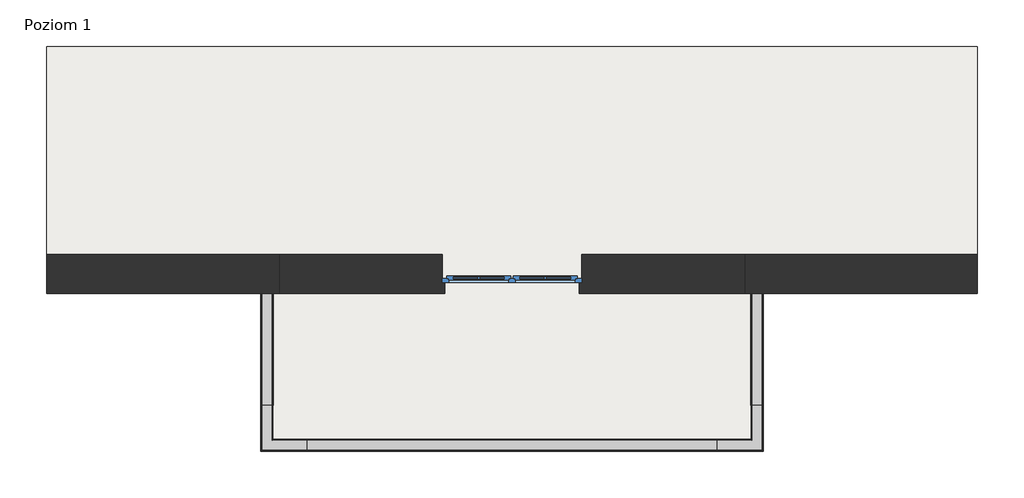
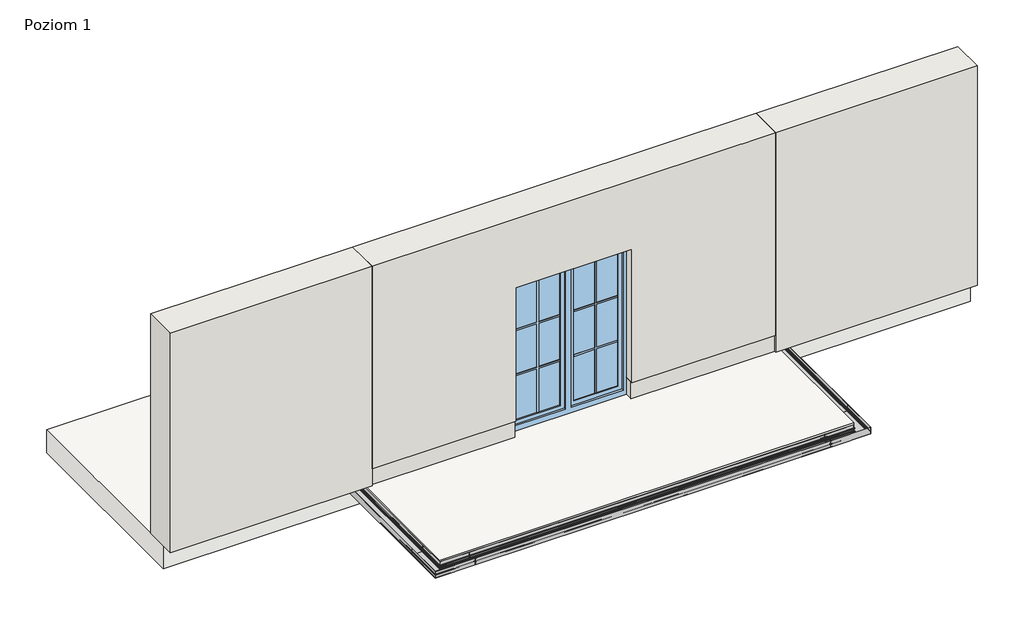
# One storey, part 1 of 4: 5 proxies, 4 walls, 3 slabs, 1 window.
"""IFC4 building model written with IfcOpenShell, lengths in millimetres."""

from ifc_helpers import new_model, si_unit, frame, origin, origin_with_axes, place, context, project, spatial, polyline, outline, extrude, faceted_brep, transform, mapped, element, save
from components import generic_models_1564dfc5, generic_models_f545b3be, generic_models_1ec3699d, generic_models_fa7b45f4, generic_models_2630b972, window_150x200_12b14935

model = new_model("IFC4")

# Units and contexts
model_context = context("Model", 3, world=origin())
ifc_project = project(units=[si_unit("LENGTHUNIT", "METRE", prefix="MILLI")], contexts=[model_context])

# Site, building, storey
site = spatial("IfcSite", under=ifc_project)
building = spatial("IfcBuilding", under=site)
storey = spatial("IfcBuildingStorey", under=building, Name="Poziom 1", Elevation=0.0)

# Proxies
placement = place(None, origin())
generic_models_shape = generic_models_1564dfc5(model_context)
element("IfcBuildingElementProxy", 1, Name="Zakończenie RENODRAIN : Zakończenie RENODRAIN", ObjectType="Zakończenie RENODRAIN : Zakończenie RENODRAIN", at=placement, inside=storey, context=model_context, shape_type="MappedRepresentation", body=[
    mapped(generic_models_shape, transform((-100591.2365031, 45415.2483344, -55.0), x_axis=(0.0, -1.0, 0.0), y_axis=(1.0, 0.0, 0.0), z_axis=(0.0, 0.0, 1.0))),
])
generic_models_2_shape = generic_models_f545b3be(model_context)
element("IfcBuildingElementProxy", 2, Name="Zakończenie RENODRAIN : Zakończenie RENODRAIN", ObjectType="Zakończenie RENODRAIN : Zakończenie RENODRAIN", at=placement, inside=storey, context=model_context, shape_type="MappedRepresentation", body=[
    mapped(generic_models_2_shape, transform((-105717.2365022, 45415.2483344, -55.0), x_axis=(0.0, -1.0, 0.0), y_axis=(1.0, 0.0, 0.0), z_axis=(0.0, 0.0, 1.0))),
])
generic_models_3_shape = generic_models_1ec3699d(model_context)
element("IfcBuildingElementProxy", 3, Name="Koryto RENODRAIN : RENODRAIN", ObjectType="Koryto RENODRAIN : RENODRAIN", at=placement, inside=storey, context=model_context, shape_type="MappedRepresentation", body=[
    mapped(generic_models_3_shape, transform((-105717.2365026, 45418.2483344, -55.0), x_axis=(0.0, -1.0, 0.0), y_axis=(1.0, 0.0, 0.0), z_axis=(0.0, 0.0, 1.0))),
])
generic_models_4_shape = generic_models_fa7b45f4(model_context)
element("IfcBuildingElementProxy", 4, Name="Koryto RENODRAIN : RENODRAIN", ObjectType="Koryto RENODRAIN : RENODRAIN", at=placement, inside=storey, context=model_context, shape_type="MappedRepresentation", body=[
    mapped(generic_models_4_shape, transform((-100591.2365026, 45418.2483344, -55.0), x_axis=(0.0, -1.0, 0.0), y_axis=(1.0, 0.0, 0.0), z_axis=(0.0, 0.0, 1.0))),
])
generic_models_5_shape = generic_models_2630b972(model_context)
element("IfcBuildingElementProxy", 5, Name="Koryto RENODRAIN : RENODRAIN", ObjectType="Koryto RENODRAIN : RENODRAIN", at=placement, inside=storey, context=model_context, shape_type="MappedRepresentation", body=[
    mapped(generic_models_5_shape, transform((-105717.2365026, 43700.2483344, -55.0), x_axis=(1.0, 0.0, 0.0), y_axis=(0.0, 1.0, 0.0), z_axis=(0.0, 0.0, 1.0))),
])

# Slabs
element("IfcSlab", 6, ObjectType="Taras - wykończenie - posadzka z płytek grubowarstwowych - podkładka P1 - hydroizolacja", at=placement, inside=storey, context=model_context, shape_type="SweptSolid", body=[
    extrude(outline(polyline([(-105717.2365026, 43700.2483344), (-105717.2365026, 45418.2483344), (-100591.2365026, 45418.2483344), (-100591.2365026, 43700.2483344), (-105717.2365026, 43700.2483344)])), frame((0.0, 0.0, -215.0), z_axis=(0.0, 0.0, 1.0), x_axis=(1.0, 0.0, 0.0)), (0.0, 0.0, 1.0), 160.0),
])
element("IfcSlab", 7, ObjectType="Taras - wykończenie - posadzka z płytek grubowarstwowych", at=placement, inside=storey, context=model_context, shape_type="SweptSolid", body=[
    extrude(outline(polyline([(-105717.2365026, 43700.2483344), (-105717.2365026, 45418.2483344), (-100591.2365026, 45418.2483344), (-100591.2365026, 43700.2483344), (-105717.2365026, 43700.2483344)])), frame((0.0, 0.0, -55.0), z_axis=(0.0, 0.0, 1.0), x_axis=(1.0, 0.0, 0.0)), (0.0, 0.0, 1.0), 55.0),
])
element("IfcSlab", 8, ObjectType="Strop", at=placement, inside=storey, context=model_context, shape_type="Brep", body=[
    faceted_brep([(-98154.2365026, 45418.2483344, -300.0), (-108154.2365026, 45418.2483344, -300.0), (-108154.2365026, 47918.2483344, -300.0), (-98154.2365026, 47918.2483344, -300.0), (-98154.2365026, 45418.2483344, 0.0), (-98154.2365026, 45683.2483344, 0.0), (-98154.2365026, 47918.2483344, 0.0), (-108154.2365026, 47918.2483344, 0.0), (-108154.2365026, 45683.2483344, 0.0), (-108154.2365026, 45418.2483344, 0.0)], [[[0, 1, 2, 3]], [[4, 5, 6, 7, 8, 9]], [[1, 0, 4, 9]], [[2, 1, 9, 8, 7]], [[3, 2, 7, 6]], [[0, 3, 6, 5, 4]]]),
])

# Walls
element("IfcWall", 9, ObjectType="Porotherm P+W 25 + o15 + t", at=placement, inside=storey, context=model_context, shape_type="Brep", body=[
    faceted_brep([(-108154.2365026, 45263.2483344, 0.0), (-105654.2365026, 45263.2483344, 0.0), (-105654.2365026, 45263.2483344, 225.0), (-105654.2365026, 45263.2483344, 2875.0), (-108154.2365026, 45263.2483344, 2875.0), (-108154.2365026, 45683.2483344, 0.0), (-108154.2365026, 45683.2483344, 2875.0), (-105654.2365026, 45683.2483344, 2875.0), (-105654.2365026, 45683.2483344, 225.0), (-105654.2365026, 45683.2483344, 0.0), (-108154.2365026, 45418.2483344, 0.0), (-105654.2365026, 45285.2483344, 0.0)], [[[0, 1, 2, 3, 4]], [[5, 6, 7, 8, 9]], [[1, 0, 10, 5, 9, 11]], [[4, 3, 7, 6]], [[0, 4, 6, 5, 10]], [[1, 11, 9, 8, 7, 3, 2]]]),
])
element("IfcWall", 10, ObjectType="Porotherm P+W 25 + o15 + t", at=placement, inside=storey, context=model_context, shape_type="Brep", body=[
    faceted_brep([(-100654.2365026, 45263.2483344, 2875.0), (-100654.2365026, 45263.2483344, 225.0), (-100654.2365026, 45263.2483344, 0.0), (-98154.2365026, 45263.2483344, 0.0), (-98154.2365026, 45263.2483344, 2875.0), (-100654.2365026, 45683.2483344, 0.0), (-100654.2365026, 45683.2483344, 225.0), (-100654.2365026, 45683.2483344, 2875.0), (-98154.2365026, 45683.2483344, 2875.0), (-98154.2365026, 45683.2483344, 0.0), (-100654.2365026, 45285.2483344, 0.0), (-98154.2365026, 45418.2483344, 0.0)], [[[0, 1, 2, 3, 4]], [[5, 6, 7, 8, 9]], [[3, 2, 10, 5, 9, 11]], [[4, 3, 11, 9, 8]], [[0, 4, 8, 7]], [[0, 7, 6, 5, 10, 2, 1]]]),
])
element("IfcWall", 11, ObjectType="Porotherm P+W 25 + o12 + pł ceramiczne", at=placement, inside=storey, context=model_context, shape_type="SweptSolid", body=[
    extrude(outline(polyline([(-100654.2365026, 45683.2483344), (-100654.2365026, 45285.2483344), (-102434.2365026, 45285.2483344), (-102434.2365026, 45383.2483344), (-102404.2365026, 45383.2483344), (-102404.2365026, 45683.2483344), (-100654.2365026, 45683.2483344)])), origin_with_axes(), (0.0, 0.0, 1.0), 225.0),
    extrude(outline(polyline([(-105654.2365026, 45285.2483344), (-105654.2365026, 45683.2483344), (-103904.2365026, 45683.2483344), (-103904.2365026, 45383.2483344), (-103874.2365026, 45383.2483344), (-103874.2365026, 45285.2483344), (-105654.2365026, 45285.2483344)])), origin_with_axes(), (0.0, 0.0, 1.0), 225.0),
])
element("IfcWall", 12, ObjectType="Porotherm P+W 25 + o15 + t", at=placement, inside=storey, context=model_context, shape_type="Brep", body=[
    faceted_brep([(-100654.2365026, 45263.2483344, 225.0), (-100654.2365026, 45263.2483344, 2875.0), (-105654.2365026, 45263.2483344, 2875.0), (-105654.2365026, 45263.2483344, 225.0), (-103874.2365026, 45263.2483344, 225.0), (-103874.2365026, 45263.2483344, 1970.0), (-102434.2365026, 45263.2483344, 1970.0), (-102434.2365026, 45263.2483344, 225.0), (-100654.2365026, 45683.2483344, 2875.0), (-100654.2365026, 45683.2483344, 225.0), (-102404.2365026, 45683.2483344, 225.0), (-102404.2365026, 45683.2483344, 2000.0), (-103904.2365026, 45683.2483344, 2000.0), (-103904.2365026, 45683.2483344, 225.0), (-105654.2365026, 45683.2483344, 225.0), (-105654.2365026, 45683.2483344, 2875.0), (-105654.2365026, 45285.2483344, 225.0), (-103904.2365026, 45383.2483344, 225.0), (-103874.2365026, 45383.2483344, 225.0), (-103874.2365026, 45285.2483344, 225.0), (-100654.2365026, 45285.2483344, 225.0), (-102434.2365026, 45285.2483344, 225.0), (-102434.2365026, 45383.2483344, 225.0), (-102404.2365026, 45383.2483344, 225.0), (-102404.2365026, 45383.2483344, 2000.0), (-102434.2365026, 45383.2483344, 1970.0), (-103904.2365026, 45383.2483344, 2000.0), (-103874.2365026, 45383.2483344, 1970.0)], [[[0, 1, 2, 3, 4, 5, 6, 7]], [[8, 9, 10, 11, 12, 13, 14, 15]], [[3, 16, 14, 13, 17, 18, 19, 4]], [[9, 20, 0, 7, 21, 22, 23, 10]], [[1, 0, 20, 9, 8]], [[2, 1, 8, 15]], [[3, 2, 15, 14, 16]], [[24, 11, 10, 23]], [[6, 25, 22, 21, 7]], [[26, 12, 11, 24]], [[26, 24, 23, 22, 25, 27, 18, 17]], [[12, 26, 17, 13]], [[27, 25, 6, 5]], [[27, 5, 4, 19, 18]]]),
])

# Window
window_150x200_shape = window_150x200_12b14935(model_context)
element("IfcWindow", 13, ObjectType="OKNO_2X_W_SZ : 150x200", at=placement, inside=storey, context=model_context, shape_type="MappedRepresentation", body=[
    mapped(window_150x200_shape, transform((-103154.2365026, 45473.2483344, -850.0), x_axis=(-1.0, 0.0, 0.0), y_axis=(0.0, -1.0, 0.0), z_axis=(0.0, 0.0, 1.0))),
])

save(model, "model.ifc")
